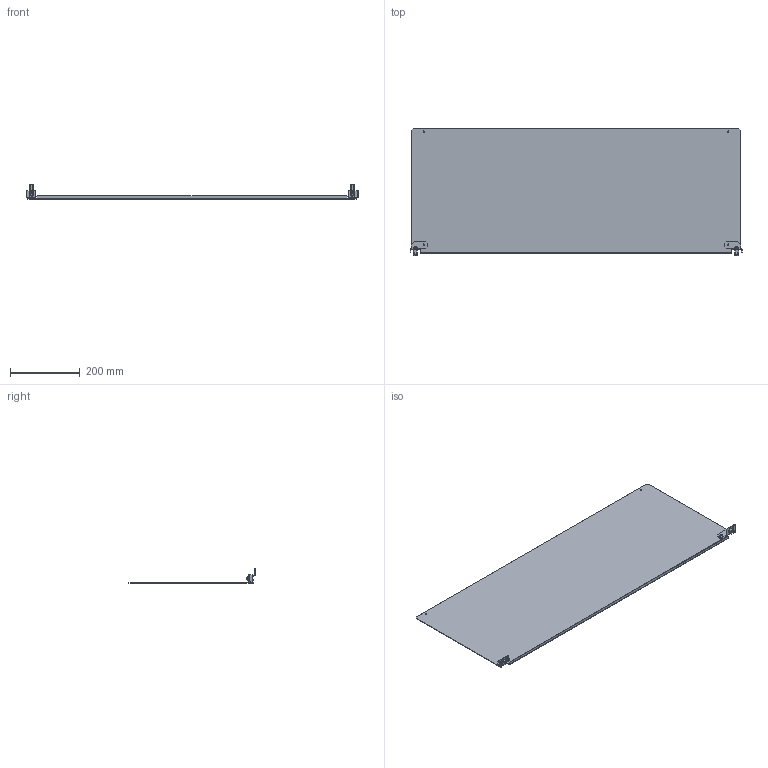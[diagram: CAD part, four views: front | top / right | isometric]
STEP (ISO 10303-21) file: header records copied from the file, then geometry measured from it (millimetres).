
FILE_DESCRIPTION(('CAx-IF Rec.Pracs.---Model Styling and Organization---1.2---2011-12-15','CAx-IF Rec.Pracs.---Geometric and Assembly Validation Properties---4.1---2014-06-16','CAx-IF Rec.Pracs.---PMI Polyline Presentation---2.0---2013-05-24'),'2;1');
FILE_NAME('R5RCB100.stp','2021-05-06T04:08:51+03:00',(''),(''),'STEP Interface 4.4 by CT CoreTechnologie','3D_Evolution4.4 by CT CoreTechnologie','');
FILE_SCHEMA(('AUTOMOTIVE_DESIGN { 1 0 10303 214 1 1 1 1 }'));
Length unit declared in the file: millimetre
Products named in the file (6): R5RCB100; RB.0546.00.00.0_-00; RB.0545.00.00.1_-02 400x1000; M6x16-DIN 7985 ISR_thread; AC00C485; RB.0546.00.00.0_-01
Assembly tree (7 placements, depth 2):
  R5RCB100
    RB.0546.00.00.0_-00
    RB.0545.00.00.1_-02 400x1000
    M6x16-DIN 7985 ISR_thread  x2
    AC00C485  x2
    RB.0546.00.00.0_-01
Bounding box: 955 x 365.5 x 42.55 mm (x, y, z)
Surface area: 706517.6 mm2 (no closed solid volume)
Topology: 0 solids, 11 shells, 267 faces, 663 edges, 412 vertices
Faces by surface type: plane 139, cylinder 100, bspline 28
Entity records: 5925 total; most frequent: CARTESIAN_POINT 1407, DIRECTION 880, ORIENTED_EDGE 874, EDGE_CURVE 437, VECTOR 306, LINE 306, AXIS2_PLACEMENT_3D 287, VERTEX_POINT 278
